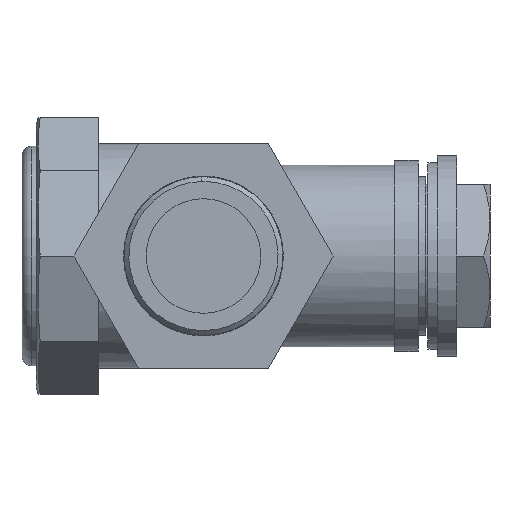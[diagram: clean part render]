
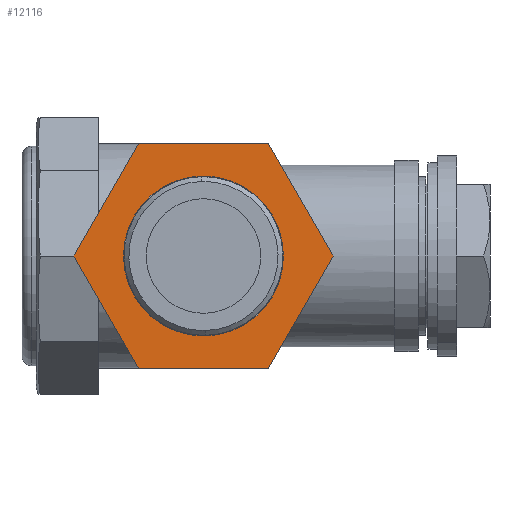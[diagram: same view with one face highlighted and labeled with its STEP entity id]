
A CAD part, left-side view. The second image highlights one B-rep face of the part: STEP entity #12116.
In plain terms, the highlighted planar face has unit normal (-1, 0, 0).
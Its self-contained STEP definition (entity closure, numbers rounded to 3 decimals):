
#3424 = EDGE_CURVE ( 'NONE', #3433, #3425, #6585, .T. ) ;
#3425 = VERTEX_POINT ( 'NONE', #7121 ) ;
#3426 = ORIENTED_EDGE ( 'NONE', *, *, #3427, .T. ) ;
#3427 = EDGE_CURVE ( 'NONE', #3425, #3875, #7172, .T. ) ;
#3429 = ORIENTED_EDGE ( 'NONE', *, *, #3431, .T. ) ;
#3431 = EDGE_CURVE ( 'NONE', #3511, #3433, #7014, .T. ) ;
#3433 = VERTEX_POINT ( 'NONE', #7138 ) ;
#3435 = ORIENTED_EDGE ( 'NONE', *, *, #3424, .T. ) ;
#3436 = VERTEX_POINT ( 'NONE', #7017 ) ;
#3490 = EDGE_CURVE ( 'NONE', #3436, #3511, #7205, .T. ) ;
#3492 = EDGE_CURVE ( 'NONE', #3875, #3493, #7275, .T. ) ;
#3493 = VERTEX_POINT ( 'NONE', #7271 ) ;
#3494 = ORIENTED_EDGE ( 'NONE', *, *, #3496, .T. ) ;
#3496 = EDGE_CURVE ( 'NONE', #3493, #3436, #7250, .T. ) ;
#3498 = EDGE_LOOP ( 'NONE', ( #3500, #3501 ) ) ;
#3500 = ORIENTED_EDGE ( 'NONE', *, *, #12084, .F. ) ;
#3501 = ORIENTED_EDGE ( 'NONE', *, *, #12185, .F. ) ;
#3511 = VERTEX_POINT ( 'NONE', #7233 ) ;
#3849 = ORIENTED_EDGE ( 'NONE', *, *, #3490, .T. ) ;
#3875 = VERTEX_POINT ( 'NONE', #7530 ) ;
#3880 = ORIENTED_EDGE ( 'NONE', *, *, #3492, .T. ) ;
#6582 = DIRECTION ( 'NONE',  ( 0., -0.5, -0.866 ) ) ;
#6583 = VECTOR ( 'NONE', #6582, 1000. ) ;
#6584 = CARTESIAN_POINT ( 'NONE',  ( -53.077, 33.29, 0. ) ) ;
#6585 = LINE ( 'NONE', #6584, #6583 ) ;
#7013 = CARTESIAN_POINT ( 'NONE',  ( -53.077, 19.723, 23.5 ) ) ;
#7014 = LINE ( 'NONE', #7013, #7054 ) ;
#7017 = CARTESIAN_POINT ( 'NONE',  ( -53.077, -7.413, 23.5 ) ) ;
#7052 = DIRECTION ( 'NONE',  ( 0., 0.5, -0.866 ) ) ;
#7054 = VECTOR ( 'NONE', #7052, 1000. ) ;
#7088 = VECTOR ( 'NONE', #7145, 1000. ) ;
#7121 = CARTESIAN_POINT ( 'NONE',  ( -53.077, 19.723, -23.5 ) ) ;
#7138 = CARTESIAN_POINT ( 'NONE',  ( -53.077, 33.29, 0. ) ) ;
#7145 = DIRECTION ( 'NONE',  ( 0., -1., 0. ) ) ;
#7172 = LINE ( 'NONE', #7173, #7088 ) ;
#7173 = CARTESIAN_POINT ( 'NONE',  ( -53.077, 19.723, -23.5 ) ) ;
#7202 = DIRECTION ( 'NONE',  ( 0., 1., 0. ) ) ;
#7203 = VECTOR ( 'NONE', #7202, 1000. ) ;
#7204 = CARTESIAN_POINT ( 'NONE',  ( -53.077, -7.413, 23.5 ) ) ;
#7205 = LINE ( 'NONE', #7204, #7203 ) ;
#7233 = CARTESIAN_POINT ( 'NONE',  ( -53.077, 19.723, 23.5 ) ) ;
#7247 = DIRECTION ( 'NONE',  ( 0., 0.5, 0.866 ) ) ;
#7248 = VECTOR ( 'NONE', #7247, 1000. ) ;
#7249 = CARTESIAN_POINT ( 'NONE',  ( -53.077, -20.981, 0. ) ) ;
#7250 = LINE ( 'NONE', #7249, #7248 ) ;
#7271 = CARTESIAN_POINT ( 'NONE',  ( -53.077, -20.981, 0. ) ) ;
#7272 = DIRECTION ( 'NONE',  ( 0., -0.5, 0.866 ) ) ;
#7273 = VECTOR ( 'NONE', #7272, 1000. ) ;
#7274 = CARTESIAN_POINT ( 'NONE',  ( -53.077, -7.413, -23.5 ) ) ;
#7275 = LINE ( 'NONE', #7274, #7273 ) ;
#7530 = CARTESIAN_POINT ( 'NONE',  ( -53.077, -7.413, -23.5 ) ) ;
#8876 = DIRECTION ( 'NONE',  ( 0., 0.5, 0.866 ) ) ;
#8877 = DIRECTION ( 'NONE',  ( 1., 0., 0. ) ) ;
#8878 = CARTESIAN_POINT ( 'NONE',  ( -53.077, -34.548, 23.5 ) ) ;
#8879 = AXIS2_PLACEMENT_3D ( 'NONE', #8878, #8877, #8876 ) ;
#8881 = PLANE ( 'NONE',  #8879 ) ;
#8882 = FACE_BOUND ( 'NONE', #3498, .T. ) ;
#8889 = FACE_OUTER_BOUND ( 'NONE', #12117, .T. ) ;
#8963 = CARTESIAN_POINT ( 'NONE',  ( -53.077, -2.22, -14.506 ) ) ;
#8964 = CARTESIAN_POINT ( 'NONE',  ( -53.077, 14.53, 14.506 ) ) ;
#9024 = DIRECTION ( 'NONE',  ( 0., -0.5, -0.866 ) ) ;
#9025 = DIRECTION ( 'NONE',  ( -1., 0., 0. ) ) ;
#9026 = CARTESIAN_POINT ( 'NONE',  ( -53.077, 6.155, 0. ) ) ;
#9027 = AXIS2_PLACEMENT_3D ( 'NONE', #9026, #9025, #9024 ) ;
#9028 = CIRCLE ( 'NONE', #9027, 16.75 ) ;
#9342 = DIRECTION ( 'NONE',  ( 0., -0.5, -0.866 ) ) ;
#9389 = DIRECTION ( 'NONE',  ( -1., 0., 0. ) ) ;
#9390 = CARTESIAN_POINT ( 'NONE',  ( -53.077, 6.155, 0. ) ) ;
#9391 = AXIS2_PLACEMENT_3D ( 'NONE', #9390, #9389, #9342 ) ;
#9392 = CIRCLE ( 'NONE', #9391, 16.75 ) ;
#12084 = EDGE_CURVE ( 'NONE', #12085, #12086, #9028, .T. ) ;
#12085 = VERTEX_POINT ( 'NONE', #8964 ) ;
#12086 = VERTEX_POINT ( 'NONE', #8963 ) ;
#12116 = ADVANCED_FACE ( 'NONE', ( #8889, #8882 ), #8881, .F. ) ;
#12117 = EDGE_LOOP ( 'NONE', ( #3849, #3429, #3435, #3426, #3880, #3494 ) ) ;
#12185 = EDGE_CURVE ( 'NONE', #12086, #12085, #9392, .T. ) ;
